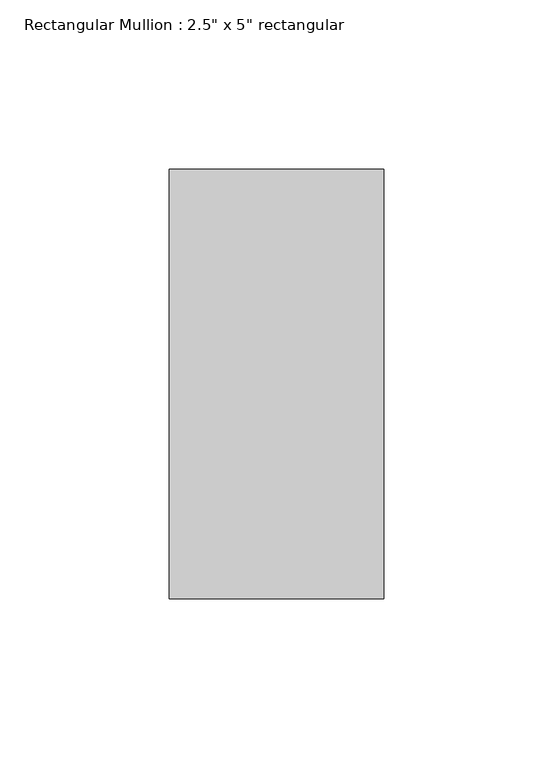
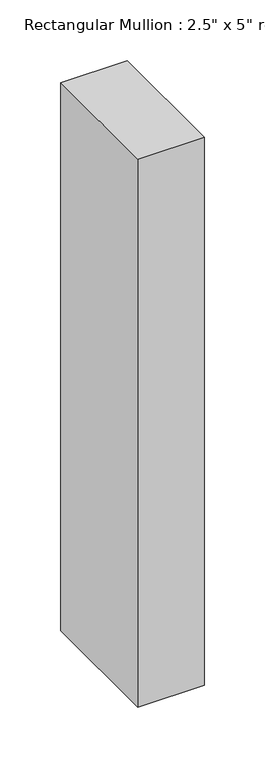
"""IFC4 building model written with IfcOpenShell, lengths in millimetres: member geometry."""

from ifc_helpers import new_model, si_unit, frame, origin, place, context, project, spatial, polyline, outline, extrude, source, transform, mapped, element, save


def member_ece69ae7(model_context):
    return source(origin(), model_context, "Body", "SweptSolid", [
        extrude(outline(polyline([(31.75, 63.5), (31.75, -63.5), (-31.75, -63.5), (-31.75, 63.5), (31.75, 63.5)])), frame((0.0, 0.0, -552.45), z_axis=(0.0, 0.0, 1.0), x_axis=(1.0, 0.0, 0.0)), (0.0, 0.0, 1.0), 552.45),
    ])


if __name__ == "__main__":
    model = new_model("IFC4")
    model_context = context("Model", 3, world=origin())
    ifc_project = project(units=[si_unit("LENGTHUNIT", "METRE", prefix="MILLI")], contexts=[model_context])
    site = spatial("IfcSite", under=ifc_project)
    building = spatial("IfcBuilding", under=site)
    placement = place(None, origin())
    member_shape = member_ece69ae7(model_context)
    element("IfcMember", 1, ObjectType="Rectangular Mullion : 2.5\" x 5\" rectangular", at=placement, inside=building, context=model_context, shape_type="MappedRepresentation", body=[
        mapped(member_shape, transform((0.0, 0.0, 0.0), x_axis=(1.0, 0.0, 0.0), y_axis=(0.0, 1.0, 0.0), z_axis=(0.0, 0.0, 1.0))),
    ])
    save(model, "model.ifc")
